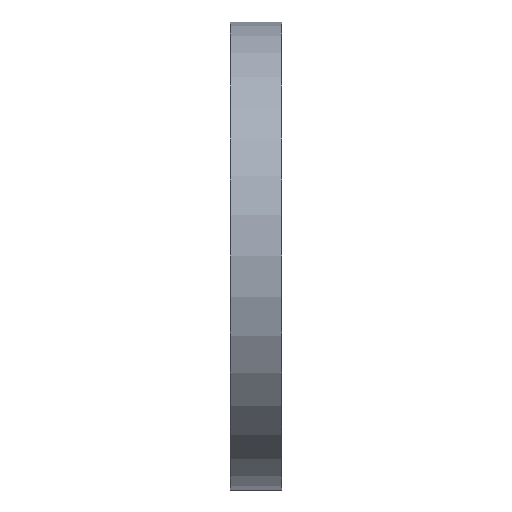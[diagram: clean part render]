
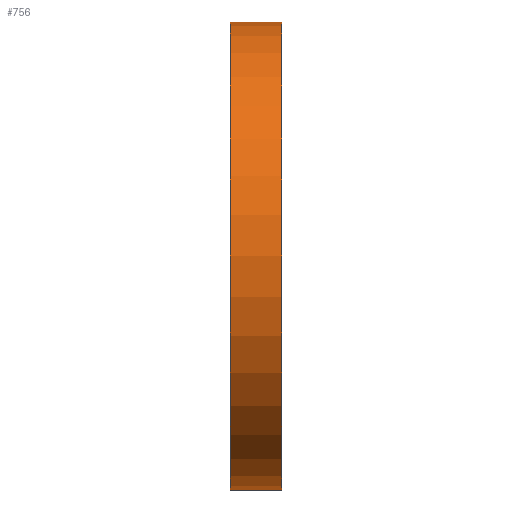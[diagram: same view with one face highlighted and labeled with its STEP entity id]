
A CAD part, left-side view. The second image highlights one B-rep face of the part: STEP entity #756.
In plain terms, the highlighted cylindrical face has radius 117.5 mm (diameter 235 mm), a partial arc.
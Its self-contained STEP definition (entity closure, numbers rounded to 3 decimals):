
#14 = ORIENTED_EDGE ( 'NONE', *, *, #219, .T. ) ;
#19 = CIRCLE ( 'NONE', #729, 117.5 ) ;
#24 = LINE ( 'NONE', #476, #183 ) ;
#26 = LINE ( 'NONE', #32, #323 ) ;
#32 = CARTESIAN_POINT ( 'NONE',  ( 0., 34.695, 117.5 ) ) ;
#47 = CYLINDRICAL_SURFACE ( 'NONE', #670, 117.5 ) ;
#53 = VERTEX_POINT ( 'NONE', #482 ) ;
#82 = DIRECTION ( 'NONE',  ( 0., 1., 0. ) ) ;
#107 = DIRECTION ( 'NONE',  ( 0., 1., 0. ) ) ;
#123 = ORIENTED_EDGE ( 'NONE', *, *, #574, .F. ) ;
#155 = DIRECTION ( 'NONE',  ( 0., 0., 1. ) ) ;
#173 = DIRECTION ( 'NONE',  ( 0., 0., 1. ) ) ;
#178 = EDGE_CURVE ( 'NONE', #53, #735, #19, .T. ) ;
#183 = VECTOR ( 'NONE', #82, 1000. ) ;
#219 = EDGE_CURVE ( 'NONE', #735, #798, #26, .T. ) ;
#236 = DIRECTION ( 'NONE',  ( 0., 1., 0. ) ) ;
#261 = EDGE_LOOP ( 'NONE', ( #123, #314, #14, #673 ) ) ;
#273 = CIRCLE ( 'NONE', #379, 117.5 ) ;
#314 = ORIENTED_EDGE ( 'NONE', *, *, #178, .T. ) ;
#323 = VECTOR ( 'NONE', #493, 1000. ) ;
#373 = VERTEX_POINT ( 'NONE', #760 ) ;
#379 = AXIS2_PLACEMENT_3D ( 'NONE', #481, #736, #155 ) ;
#476 = CARTESIAN_POINT ( 'NONE',  ( 0., 34.695, -117.5 ) ) ;
#481 = CARTESIAN_POINT ( 'NONE',  ( 0., 26., 0. ) ) ;
#482 = CARTESIAN_POINT ( 'NONE',  ( 0., 0., -117.5 ) ) ;
#493 = DIRECTION ( 'NONE',  ( 0., 1., 0. ) ) ;
#499 = CARTESIAN_POINT ( 'NONE',  ( 0., 26., 117.5 ) ) ;
#561 = DIRECTION ( 'NONE',  ( 0., 0., 1. ) ) ;
#570 = CARTESIAN_POINT ( 'NONE',  ( 0., 34.695, 0. ) ) ;
#574 = EDGE_CURVE ( 'NONE', #53, #373, #24, .T. ) ;
#630 = FACE_OUTER_BOUND ( 'NONE', #261, .T. ) ;
#662 = EDGE_CURVE ( 'NONE', #373, #798, #273, .T. ) ;
#670 = AXIS2_PLACEMENT_3D ( 'NONE', #570, #236, #173 ) ;
#673 = ORIENTED_EDGE ( 'NONE', *, *, #662, .F. ) ;
#687 = CARTESIAN_POINT ( 'NONE',  ( 0., 0., 117.5 ) ) ;
#729 = AXIS2_PLACEMENT_3D ( 'NONE', #811, #107, #561 ) ;
#735 = VERTEX_POINT ( 'NONE', #687 ) ;
#736 = DIRECTION ( 'NONE',  ( 0., 1., 0. ) ) ;
#756 = ADVANCED_FACE ( 'NONE', ( #630 ), #47, .T. ) ;
#760 = CARTESIAN_POINT ( 'NONE',  ( 0., 26., -117.5 ) ) ;
#798 = VERTEX_POINT ( 'NONE', #499 ) ;
#811 = CARTESIAN_POINT ( 'NONE',  ( 0., 0., 0. ) ) ;
